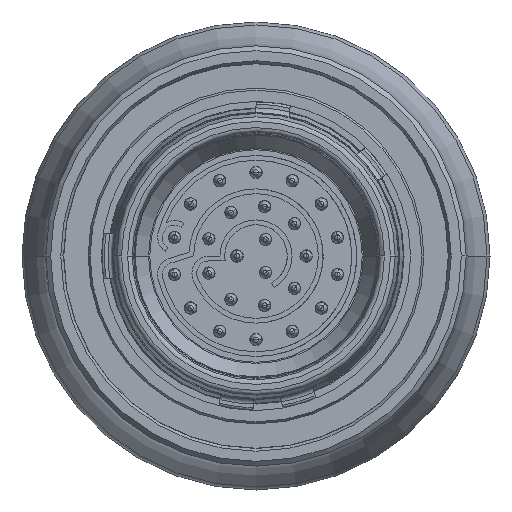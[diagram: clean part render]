
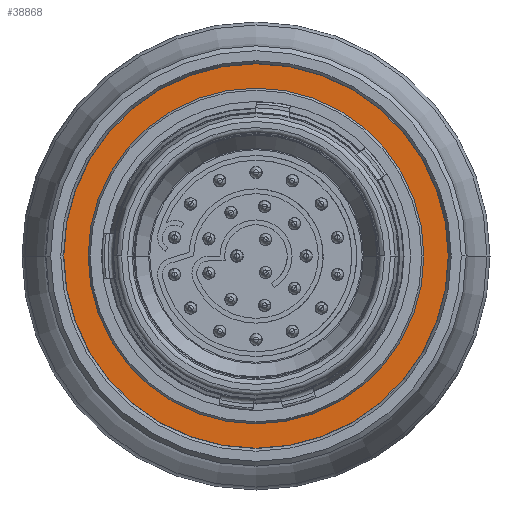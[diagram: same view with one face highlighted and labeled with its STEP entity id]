
A CAD part, left-side view. The second image highlights one B-rep face of the part: STEP entity #38868.
In plain terms, the highlighted planar face has unit normal (-1, 0, 0).
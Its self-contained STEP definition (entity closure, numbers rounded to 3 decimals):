
#11106=CARTESIAN_POINT('',(12.01,0.,0.));
#11107=DIRECTION('',(1.,0.,0.));
#11108=DIRECTION('',(0.,1.,0.));
#11109=AXIS2_PLACEMENT_3D('',#11106,#11107,#11108);
#11111=CARTESIAN_POINT('',(12.01,0.,0.));
#11112=DIRECTION('',(1.,0.,0.));
#11113=DIRECTION('',(0.,-1.,0.));
#11114=AXIS2_PLACEMENT_3D('',#11111,#11112,#11113);
#11116=CARTESIAN_POINT('',(12.01,0.,0.));
#11117=DIRECTION('',(-1.,0.,0.));
#11118=DIRECTION('',(0.,1.,0.));
#11119=AXIS2_PLACEMENT_3D('',#11116,#11117,#11118);
#11121=CARTESIAN_POINT('',(12.01,0.,0.));
#11122=DIRECTION('',(-1.,0.,0.));
#11123=DIRECTION('',(0.,-1.,0.));
#11124=AXIS2_PLACEMENT_3D('',#11121,#11122,#11123);
#18173=CARTESIAN_POINT('',(12.01,-7.03,0.));
#18174=VERTEX_POINT('',#18173);
#18175=CARTESIAN_POINT('',(12.01,7.03,0.));
#18176=VERTEX_POINT('',#18175);
#18179=CARTESIAN_POINT('',(12.01,8.05,0.));
#18180=CARTESIAN_POINT('',(12.01,-8.05,0.));
#18181=VERTEX_POINT('',#18179);
#18182=VERTEX_POINT('',#18180);
#38853=CARTESIAN_POINT('',(12.01,0.,0.));
#38854=DIRECTION('',(-1.,0.,0.));
#38855=DIRECTION('',(0.,1.,0.));
#38856=AXIS2_PLACEMENT_3D('',#38853,#38854,#38855);
#38857=PLANE('',#38856);
#38858=ORIENTED_EDGE('',*,*,#38840,.T.);
#38859=ORIENTED_EDGE('',*,*,#38818,.T.);
#38860=EDGE_LOOP('',(#38858,#38859));
#38861=FACE_OUTER_BOUND('',#38860,.F.);
#38863=ORIENTED_EDGE('',*,*,#38862,.T.);
#38865=ORIENTED_EDGE('',*,*,#38864,.T.);
#38866=EDGE_LOOP('',(#38863,#38865));
#38867=FACE_BOUND('',#38866,.F.);
#11110=CIRCLE('',#11109,8.05);
#11115=CIRCLE('',#11114,8.05);
#11120=CIRCLE('',#11119,7.03);
#11125=CIRCLE('',#11124,7.03);
#38818=EDGE_CURVE('',#18182,#18181,#11115,.T.);
#38840=EDGE_CURVE('',#18181,#18182,#11110,.T.);
#38862=EDGE_CURVE('',#18176,#18174,#11120,.T.);
#38864=EDGE_CURVE('',#18174,#18176,#11125,.T.);
#38868=ADVANCED_FACE('',(#38861,#38867),#38857,.T.);
